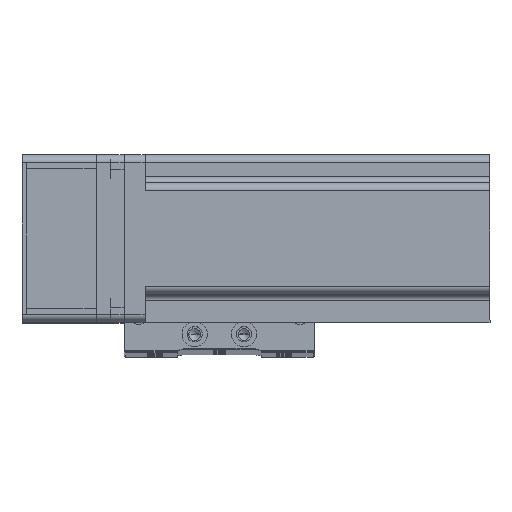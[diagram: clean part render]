
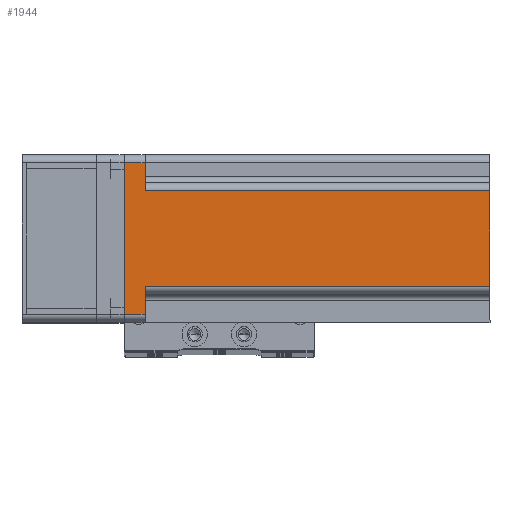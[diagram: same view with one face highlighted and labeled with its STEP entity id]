
A CAD part, top view. The second image highlights one B-rep face of the part: STEP entity #1944.
In plain terms, the highlighted planar face has unit normal (0, 0, 1) as drawn and (0, 1, 0) by its records, which use the part's own axes.
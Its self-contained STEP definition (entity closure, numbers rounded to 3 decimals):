
#307 = VERTEX_POINT ( 'NONE', #23710 ) ;
#905 = CARTESIAN_POINT ( 'NONE',  ( 27., 30., 7.5 ) ) ;
#1944 = ADVANCED_FACE ( 'NONE', ( #42933 ), #23437, .F. ) ;
#2500 = CARTESIAN_POINT ( 'NONE',  ( 27., 30., 0. ) ) ;
#2905 = CARTESIAN_POINT ( 'NONE',  ( 30., 30., 130.7 ) ) ;
#6459 = DIRECTION ( 'NONE',  ( 1., 0., 0. ) ) ;
#7090 = DIRECTION ( 'NONE',  ( 1., 0., 0. ) ) ;
#7722 = CARTESIAN_POINT ( 'NONE',  ( 27., 30., 130.7 ) ) ;
#8176 = EDGE_CURVE ( 'NONE', #15367, #43191, #30237, .T. ) ;
#8330 = CARTESIAN_POINT ( 'NONE',  ( 17., 30., 130.7 ) ) ;
#8488 = ORIENTED_EDGE ( 'NONE', *, *, #8176, .T. ) ;
#9172 = CARTESIAN_POINT ( 'NONE',  ( -27., 30., 130.7 ) ) ;
#9677 = EDGE_CURVE ( 'NONE', #46599, #44700, #14794, .T. ) ;
#9760 = EDGE_CURVE ( 'NONE', #30082, #42391, #52162, .T. ) ;
#10447 = LINE ( 'NONE', #7722, #32481 ) ;
#10642 = ORIENTED_EDGE ( 'NONE', *, *, #45719, .T. ) ;
#11726 = DIRECTION ( 'NONE',  ( -1., 0., 0. ) ) ;
#12301 = CARTESIAN_POINT ( 'NONE',  ( -17., 30., 130.7 ) ) ;
#12455 = VECTOR ( 'NONE', #11726, 1000. ) ;
#13187 = CARTESIAN_POINT ( 'NONE',  ( 17., 30., 130.7 ) ) ;
#13381 = DIRECTION ( 'NONE',  ( 0., 0., 1. ) ) ;
#13786 = DIRECTION ( 'NONE',  ( -1., 0., 0. ) ) ;
#13895 = ORIENTED_EDGE ( 'NONE', *, *, #33778, .T. ) ;
#14794 = LINE ( 'NONE', #29732, #46388 ) ;
#14993 = VECTOR ( 'NONE', #13381, 1000. ) ;
#15367 = VERTEX_POINT ( 'NONE', #48770 ) ;
#15631 = VECTOR ( 'NONE', #37285, 1000. ) ;
#15911 = EDGE_CURVE ( 'NONE', #22507, #307, #23490, .T. ) ;
#15917 = DIRECTION ( 'NONE',  ( 0., 0., -1. ) ) ;
#16329 = LINE ( 'NONE', #9172, #14993 ) ;
#16923 = CARTESIAN_POINT ( 'NONE',  ( 17., 30., 7.5 ) ) ;
#17019 = AXIS2_PLACEMENT_3D ( 'NONE', #2905, #31935, #7090 ) ;
#17371 = DIRECTION ( 'NONE',  ( 0., 0., -1. ) ) ;
#18460 = ORIENTED_EDGE ( 'NONE', *, *, #15911, .T. ) ;
#18847 = CARTESIAN_POINT ( 'NONE',  ( -20., 30., 7.5 ) ) ;
#19008 = CARTESIAN_POINT ( 'NONE',  ( -17., 30., 130.7 ) ) ;
#19263 = VECTOR ( 'NONE', #6459, 1000. ) ;
#20568 = CARTESIAN_POINT ( 'NONE',  ( -17., 30., 7.5 ) ) ;
#21778 = EDGE_CURVE ( 'NONE', #30082, #44700, #41884, .T. ) ;
#22507 = VERTEX_POINT ( 'NONE', #2500 ) ;
#23434 = EDGE_CURVE ( 'NONE', #307, #15367, #16329, .T. ) ;
#23437 = PLANE ( 'NONE',  #17019 ) ;
#23490 = LINE ( 'NONE', #44579, #12455 ) ;
#23710 = CARTESIAN_POINT ( 'NONE',  ( -27., 30., 0. ) ) ;
#29732 = CARTESIAN_POINT ( 'NONE',  ( 20., 30., 7.5 ) ) ;
#30082 = VERTEX_POINT ( 'NONE', #8330 ) ;
#30237 = LINE ( 'NONE', #18847, #19263 ) ;
#31935 = DIRECTION ( 'NONE',  ( 0., -1., 0. ) ) ;
#32481 = VECTOR ( 'NONE', #15917, 1000. ) ;
#33778 = EDGE_CURVE ( 'NONE', #43191, #42391, #38901, .T. ) ;
#36051 = ORIENTED_EDGE ( 'NONE', *, *, #9677, .F. ) ;
#36398 = EDGE_LOOP ( 'NONE', ( #8488, #13895, #45224, #38820, #36051, #10642, #18460, #36461 ) ) ;
#36461 = ORIENTED_EDGE ( 'NONE', *, *, #23434, .T. ) ;
#37285 = DIRECTION ( 'NONE',  ( 0., 0., 1. ) ) ;
#38820 = ORIENTED_EDGE ( 'NONE', *, *, #21778, .T. ) ;
#38901 = LINE ( 'NONE', #12301, #15631 ) ;
#41884 = LINE ( 'NONE', #13187, #51463 ) ;
#42391 = VERTEX_POINT ( 'NONE', #19008 ) ;
#42597 = VECTOR ( 'NONE', #13786, 1000. ) ;
#42689 = CARTESIAN_POINT ( 'NONE',  ( 30., 30., 130.7 ) ) ;
#42933 = FACE_OUTER_BOUND ( 'NONE', #36398, .T. ) ;
#43191 = VERTEX_POINT ( 'NONE', #20568 ) ;
#44579 = CARTESIAN_POINT ( 'NONE',  ( 30., 30., 0. ) ) ;
#44700 = VERTEX_POINT ( 'NONE', #16923 ) ;
#45224 = ORIENTED_EDGE ( 'NONE', *, *, #9760, .F. ) ;
#45719 = EDGE_CURVE ( 'NONE', #46599, #22507, #10447, .T. ) ;
#46388 = VECTOR ( 'NONE', #50200, 1000. ) ;
#46599 = VERTEX_POINT ( 'NONE', #905 ) ;
#48770 = CARTESIAN_POINT ( 'NONE',  ( -27., 30., 7.5 ) ) ;
#50200 = DIRECTION ( 'NONE',  ( -1., 0., 0. ) ) ;
#51463 = VECTOR ( 'NONE', #17371, 1000. ) ;
#52162 = LINE ( 'NONE', #42689, #42597 ) ;
